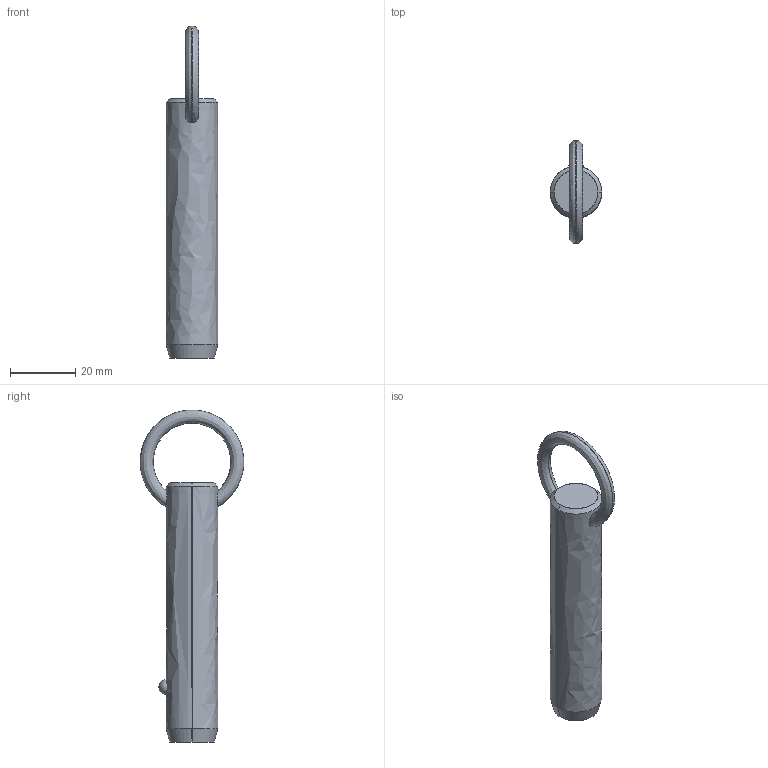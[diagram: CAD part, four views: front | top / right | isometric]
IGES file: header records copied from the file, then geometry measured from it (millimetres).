
Start section: SolidWorks IGES file using analytic representation for surfaces
Global section: file name: C:\Users\liam_\OneDrive\Documents\WORK\Work for WixRoyd\Job Files\J-00019 - Matt Davis CAD Checking\04. CAD Drawings\automotion20190605\P1250.2_v2\P1250.2_v2_20190729_IGES\P1250.062-200.igs; native system: SolidWorks 2017; preprocessor: SolidWorks 2017; author: liam_; date: 190729.233202; units: millimetre
Bounding box: 15.8 x 31.64 x 101.5 mm (x, y, z)
Surface area: 5110.1 mm2 (no closed solid volume)
Topology: 0 solids, 0 shells, 12 faces, 292 edges, 290 vertices
Faces by surface type: revolution 8, bspline 4
